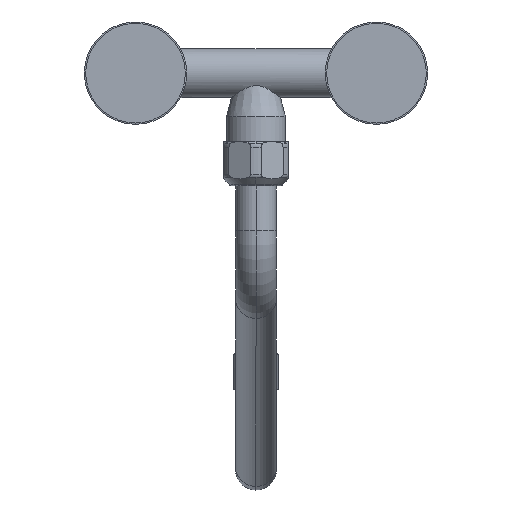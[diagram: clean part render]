
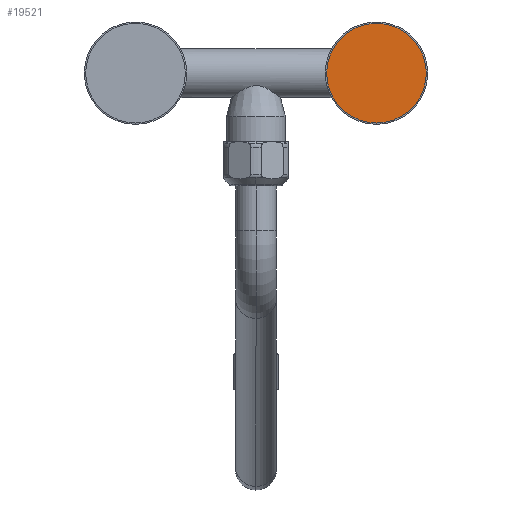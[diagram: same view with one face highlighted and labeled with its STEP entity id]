
A CAD part, front view. The second image highlights one B-rep face of the part: STEP entity #19521.
In plain terms, the highlighted planar face has unit normal (0, -1, 0).
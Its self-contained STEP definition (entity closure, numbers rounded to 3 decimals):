
#18620=CARTESIAN_POINT('',(76.5,-44.7,0.));
#18621=DIRECTION('',(0.,-1.,0.));
#18622=DIRECTION('',(1.,0.,0.));
#18623=AXIS2_PLACEMENT_3D('',#18620,#18621,#18622);
#18633=CARTESIAN_POINT('',(76.5,-44.7,0.));
#18634=DIRECTION('',(0.,1.,0.));
#18635=DIRECTION('',(1.,0.,0.));
#18636=AXIS2_PLACEMENT_3D('',#18633,#18634,#18635);
#18783=CARTESIAN_POINT('',(108.149,-44.7,0.));
#18785=VERTEX_POINT('',#18783);
#18787=CARTESIAN_POINT('',(44.851,-44.7,0.));
#18789=VERTEX_POINT('',#18787);
#19512=CARTESIAN_POINT('',(76.5,-44.7,0.));
#19513=DIRECTION('',(0.,-1.,0.));
#19514=DIRECTION('',(-1.,0.,0.));
#19515=AXIS2_PLACEMENT_3D('',#19512,#19513,#19514);
#19516=PLANE('',#19515);
#19517=ORIENTED_EDGE('',*,*,#19467,.F.);
#19518=ORIENTED_EDGE('',*,*,#19495,.T.);
#19519=EDGE_LOOP('',(#19517,#19518));
#19520=FACE_OUTER_BOUND('',#19519,.F.);
#18624=CIRCLE('',#18623,31.649);
#18637=CIRCLE('',#18636,31.649);
#19467=EDGE_CURVE('',#18785,#18789,#18624,.T.);
#19495=EDGE_CURVE('',#18785,#18789,#18637,.T.);
#19521=ADVANCED_FACE('',(#19520),#19516,.T.);
